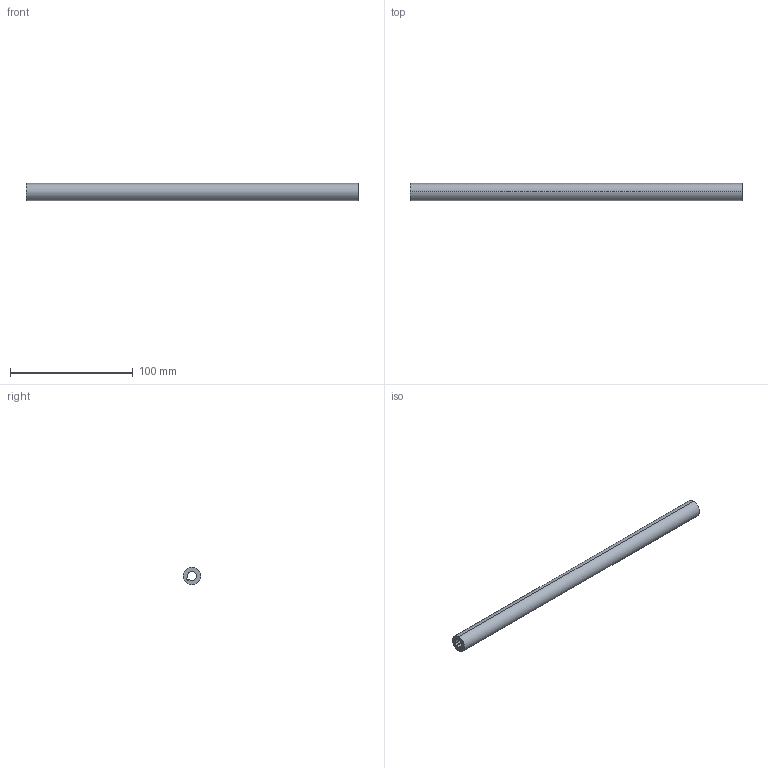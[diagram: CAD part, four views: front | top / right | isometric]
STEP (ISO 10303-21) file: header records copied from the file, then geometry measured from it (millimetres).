
FILE_DESCRIPTION (( 'STEP AP214' ), '1' );
FILE_NAME ('SyncronisationsstangeXP_KAB_400_16.step', '2009-11-24T08:53:22', ( 'Grass' ), ( 'Grass GmbH' ), 'SwSTEP 2.0', 'SolidWorks 2009', '' );
FILE_SCHEMA (( 'AUTOMOTIVE_DESIGN' ));
Length unit declared in the file: millimetre
Products named in the file (1): SyncronisationsstangeXP_KAB_400_16
Bounding box: 271 x 14 x 14 mm (x, y, z)
Volume: 29303.2 mm3; surface area: 19040.8 mm2
Topology: 1 solids, 1 shells, 15 faces, 39 edges, 26 vertices
Faces by surface type: cylinder 11, plane 4
Entity records: 513 total; most frequent: DIRECTION 93, CARTESIAN_POINT 81, ORIENTED_EDGE 78, EDGE_CURVE 39, AXIS2_PLACEMENT_3D 38, VERTEX_POINT 26, CIRCLE 22, VECTOR 17
